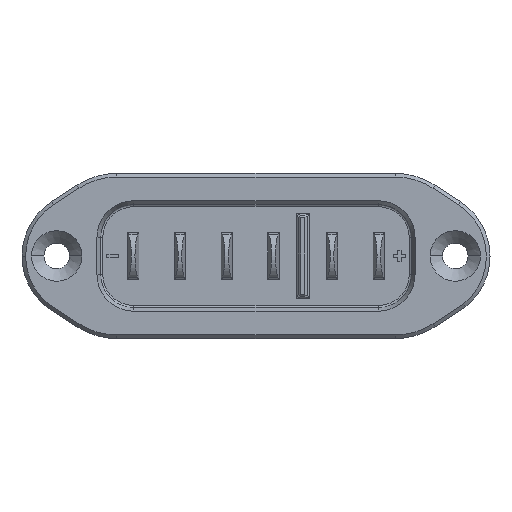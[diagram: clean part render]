
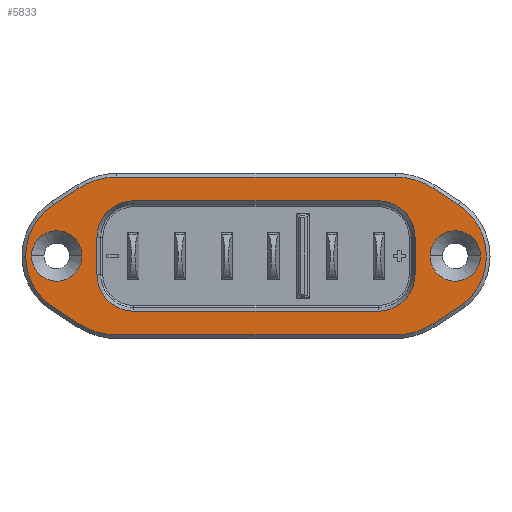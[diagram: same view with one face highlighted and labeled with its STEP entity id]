
A CAD part, top view. The second image highlights one B-rep face of the part: STEP entity #5833.
In plain terms, the highlighted planar face has unit normal (0, 0, 1).
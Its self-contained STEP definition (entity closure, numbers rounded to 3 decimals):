
#2940=DIRECTION('',(-1.,0.,0.));
#2941=VECTOR('',#2940,38.071);
#2942=CARTESIAN_POINT('',(19.836,60.8,10.1));
#2943=LINE('',#2942,#2941);
#2944=CARTESIAN_POINT('',(19.836,51.3,10.1));
#2945=DIRECTION('',(0.,0.,1.));
#2946=DIRECTION('',(0.545,0.838,0.));
#2947=AXIS2_PLACEMENT_3D('',#2944,#2945,#2946);
#2949=CARTESIAN_POINT('',(23.9,49.97,10.1));
#2950=DIRECTION('',(0.,0.,1.));
#2951=DIRECTION('',(0.633,-0.774,0.));
#2952=AXIS2_PLACEMENT_3D('',#2949,#2950,#2951);
#2954=CARTESIAN_POINT('',(19.836,48.7,10.1));
#2955=DIRECTION('',(0.,0.,1.));
#2956=DIRECTION('',(0.,-1.,0.));
#2957=AXIS2_PLACEMENT_3D('',#2954,#2955,#2956);
#2959=DIRECTION('',(1.,0.,0.));
#2960=VECTOR('',#2959,38.071);
#2961=CARTESIAN_POINT('',(-18.236,39.2,10.1));
#2962=LINE('',#2961,#2960);
#2963=CARTESIAN_POINT('',(-18.236,48.7,10.1));
#2964=DIRECTION('',(0.,0.,1.));
#2965=DIRECTION('',(-0.545,-0.838,0.));
#2966=AXIS2_PLACEMENT_3D('',#2963,#2964,#2965);
#2968=CARTESIAN_POINT('',(-22.3,49.97,10.1));
#2969=DIRECTION('',(0.,0.,1.));
#2970=DIRECTION('',(-1.,0.,0.));
#2971=AXIS2_PLACEMENT_3D('',#2968,#2969,#2970);
#2973=CARTESIAN_POINT('',(-22.3,49.97,10.1));
#2974=DIRECTION('',(0.,0.,1.));
#2975=DIRECTION('',(-0.545,0.838,0.));
#2976=AXIS2_PLACEMENT_3D('',#2973,#2974,#2975);
#2978=CARTESIAN_POINT('',(-18.236,51.3,10.1));
#2979=DIRECTION('',(0.,0.,1.));
#2980=DIRECTION('',(0.,1.,0.));
#2981=AXIS2_PLACEMENT_3D('',#2978,#2979,#2980);
#2983=DIRECTION('',(-1.,0.,0.));
#2984=VECTOR('',#2983,33.5);
#2985=CARTESIAN_POINT('',(17.55,42.45,10.1));
#2986=LINE('',#2985,#2984);
#2987=CARTESIAN_POINT('',(17.55,47.45,10.1));
#2988=DIRECTION('',(0.,0.,-1.));
#2989=DIRECTION('',(1.,0.,0.));
#2990=AXIS2_PLACEMENT_3D('',#2987,#2988,#2989);
#2992=DIRECTION('',(0.,-1.,0.));
#2993=VECTOR('',#2992,5.1);
#2994=CARTESIAN_POINT('',(22.55,52.55,10.1));
#2995=LINE('',#2994,#2993);
#2996=CARTESIAN_POINT('',(17.55,52.55,10.1));
#2997=DIRECTION('',(0.,0.,-1.));
#2998=DIRECTION('',(0.,1.,0.));
#2999=AXIS2_PLACEMENT_3D('',#2996,#2997,#2998);
#3001=DIRECTION('',(1.,0.,0.));
#3002=VECTOR('',#3001,33.5);
#3003=CARTESIAN_POINT('',(-15.95,57.55,10.1));
#3004=LINE('',#3003,#3002);
#3005=CARTESIAN_POINT('',(-15.95,52.55,10.1));
#3006=DIRECTION('',(0.,0.,-1.));
#3007=DIRECTION('',(-1.,0.,0.));
#3008=AXIS2_PLACEMENT_3D('',#3005,#3006,#3007);
#3010=DIRECTION('',(0.,1.,0.));
#3011=VECTOR('',#3010,5.1);
#3012=CARTESIAN_POINT('',(-20.95,47.45,10.1));
#3013=LINE('',#3012,#3011);
#3014=CARTESIAN_POINT('',(-15.95,47.45,10.1));
#3015=DIRECTION('',(0.,0.,-1.));
#3016=DIRECTION('',(0.,-1.,0.));
#3017=AXIS2_PLACEMENT_3D('',#3014,#3015,#3016);
#3019=CARTESIAN_POINT('',(28.05,50.,10.1));
#3020=DIRECTION('',(0.,0.,-1.));
#3021=DIRECTION('',(-1.,0.,0.));
#3022=AXIS2_PLACEMENT_3D('',#3019,#3020,#3021);
#3024=CARTESIAN_POINT('',(28.05,50.,10.1));
#3025=DIRECTION('',(0.,0.,-1.));
#3026=DIRECTION('',(1.,0.,0.));
#3027=AXIS2_PLACEMENT_3D('',#3024,#3025,#3026);
#3029=CARTESIAN_POINT('',(-26.45,50.,10.1));
#3030=DIRECTION('',(0.,0.,-1.));
#3031=DIRECTION('',(-1.,0.,0.));
#3032=AXIS2_PLACEMENT_3D('',#3029,#3030,#3031);
#3034=CARTESIAN_POINT('',(-26.45,50.,10.1));
#3035=DIRECTION('',(0.,0.,-1.));
#3036=DIRECTION('',(1.,0.,0.));
#3037=AXIS2_PLACEMENT_3D('',#3034,#3035,#3036);
#3060=DIRECTION('',(0.838,-0.545,0.));
#3061=VECTOR('',#3060,4.133);
#3062=CARTESIAN_POINT('',(25.013,59.265,10.1));
#3063=LINE('',#3062,#3061);
#3084=CARTESIAN_POINT('',(29.219,43.469,10.1));
#3109=DIRECTION('',(-0.838,-0.545,0.));
#3110=VECTOR('',#3109,5.016);
#3111=CARTESIAN_POINT('',(29.219,43.469,10.1));
#3112=LINE('',#3111,#3110);
#3155=DIRECTION('',(-0.838,0.545,0.));
#3156=VECTOR('',#3155,5.016);
#3157=CARTESIAN_POINT('',(-23.413,40.735,10.1));
#3158=LINE('',#3157,#3156);
#3180=CARTESIAN_POINT('',(-27.619,43.469,10.1));
#3192=DIRECTION('',(0.838,0.545,0.));
#3193=VECTOR('',#3192,4.133);
#3194=CARTESIAN_POINT('',(-26.878,57.013,10.1));
#3195=LINE('',#3194,#3193);
#4794=CARTESIAN_POINT('',(22.55,47.45,10.1));
#4795=CARTESIAN_POINT('',(17.55,42.45,10.1));
#4796=VERTEX_POINT('',#4794);
#4797=VERTEX_POINT('',#4795);
#4892=CARTESIAN_POINT('',(-20.95,52.55,10.1));
#4893=CARTESIAN_POINT('',(-15.95,57.55,10.1));
#4894=VERTEX_POINT('',#4892);
#4895=VERTEX_POINT('',#4893);
#4944=CARTESIAN_POINT('',(-15.95,42.45,10.1));
#4945=VERTEX_POINT('',#4944);
#4986=CARTESIAN_POINT('',(17.55,57.55,10.1));
#4987=CARTESIAN_POINT('',(22.55,52.55,10.1));
#4988=VERTEX_POINT('',#4986);
#4989=VERTEX_POINT('',#4987);
#5076=VERTEX_POINT('',#3180);
#5097=CARTESIAN_POINT('',(19.836,60.8,10.1));
#5098=CARTESIAN_POINT('',(-18.236,60.8,10.1));
#5099=VERTEX_POINT('',#5097);
#5100=VERTEX_POINT('',#5098);
#5129=VERTEX_POINT('',#3084);
#5144=CARTESIAN_POINT('',(-29.9,50.,10.1));
#5145=CARTESIAN_POINT('',(-23.,50.,10.1));
#5146=VERTEX_POINT('',#5144);
#5147=VERTEX_POINT('',#5145);
#5210=CARTESIAN_POINT('',(-20.95,47.45,10.1));
#5211=VERTEX_POINT('',#5210);
#5224=CARTESIAN_POINT('',(-18.236,39.2,10.1));
#5225=CARTESIAN_POINT('',(19.836,39.2,10.1));
#5226=VERTEX_POINT('',#5224);
#5227=VERTEX_POINT('',#5225);
#5229=CARTESIAN_POINT('',(24.6,50.,10.1));
#5231=VERTEX_POINT('',#5229);
#5252=CARTESIAN_POINT('',(-23.413,40.735,10.1));
#5253=VERTEX_POINT('',#5252);
#5254=CARTESIAN_POINT('',(-23.413,59.265,10.1));
#5255=VERTEX_POINT('',#5254);
#5266=CARTESIAN_POINT('',(25.013,40.735,10.1));
#5267=VERTEX_POINT('',#5266);
#5306=CARTESIAN_POINT('',(28.478,57.013,10.1));
#5307=VERTEX_POINT('',#5306);
#5316=CARTESIAN_POINT('',(-26.878,57.013,10.1));
#5317=CARTESIAN_POINT('',(-30.7,49.97,10.1));
#5318=VERTEX_POINT('',#5316);
#5319=VERTEX_POINT('',#5317);
#5320=CARTESIAN_POINT('',(31.5,50.,10.1));
#5321=VERTEX_POINT('',#5320);
#5338=CARTESIAN_POINT('',(25.013,59.265,10.1));
#5339=VERTEX_POINT('',#5338);
#5771=CARTESIAN_POINT('',(17.55,52.55,10.1));
#5772=DIRECTION('',(0.,0.,-1.));
#5773=DIRECTION('',(0.,-1.,0.));
#5774=AXIS2_PLACEMENT_3D('',#5771,#5772,#5773);
#5775=PLANE('',#5774);
#5777=ORIENTED_EDGE('',*,*,#5776,.F.);
#5779=ORIENTED_EDGE('',*,*,#5778,.F.);
#5781=ORIENTED_EDGE('',*,*,#5780,.T.);
#5783=ORIENTED_EDGE('',*,*,#5782,.F.);
#5785=ORIENTED_EDGE('',*,*,#5784,.T.);
#5787=ORIENTED_EDGE('',*,*,#5786,.F.);
#5789=ORIENTED_EDGE('',*,*,#5788,.F.);
#5791=ORIENTED_EDGE('',*,*,#5790,.F.);
#5793=ORIENTED_EDGE('',*,*,#5792,.T.);
#5795=ORIENTED_EDGE('',*,*,#5794,.F.);
#5797=ORIENTED_EDGE('',*,*,#5796,.F.);
#5799=ORIENTED_EDGE('',*,*,#5798,.T.);
#5800=ORIENTED_EDGE('',*,*,#5761,.F.);
#5801=EDGE_LOOP('',(#5777,#5779,#5781,#5783,#5785,#5787,#5789,#5791,#5793,#5795,
#5797,#5799,#5800));
#5802=FACE_OUTER_BOUND('',#5801,.F.);
#5804=ORIENTED_EDGE('',*,*,#5803,.F.);
#5806=ORIENTED_EDGE('',*,*,#5805,.F.);
#5808=ORIENTED_EDGE('',*,*,#5807,.F.);
#5810=ORIENTED_EDGE('',*,*,#5809,.F.);
#5812=ORIENTED_EDGE('',*,*,#5811,.F.);
#5814=ORIENTED_EDGE('',*,*,#5813,.F.);
#5816=ORIENTED_EDGE('',*,*,#5815,.F.);
#5818=ORIENTED_EDGE('',*,*,#5817,.F.);
#5819=EDGE_LOOP('',(#5804,#5806,#5808,#5810,#5812,#5814,#5816,#5818));
#5820=FACE_BOUND('',#5819,.F.);
#5822=ORIENTED_EDGE('',*,*,#5821,.F.);
#5824=ORIENTED_EDGE('',*,*,#5823,.F.);
#5825=EDGE_LOOP('',(#5822,#5824));
#5826=FACE_BOUND('',#5825,.F.);
#5828=ORIENTED_EDGE('',*,*,#5827,.F.);
#5830=ORIENTED_EDGE('',*,*,#5829,.F.);
#5831=EDGE_LOOP('',(#5828,#5830));
#5832=FACE_BOUND('',#5831,.F.);
#5833=ADVANCED_FACE('',(#5802,#5820,#5826,#5832),#5775,.F.);
#2948=CIRCLE('',#2947,9.5);
#2953=CIRCLE('',#2952,8.4);
#2958=CIRCLE('',#2957,9.5);
#2967=CIRCLE('',#2966,9.5);
#2972=CIRCLE('',#2971,8.4);
#2977=CIRCLE('',#2976,8.4);
#2982=CIRCLE('',#2981,9.5);
#2991=CIRCLE('',#2990,5.);
#3000=CIRCLE('',#2999,5.);
#3009=CIRCLE('',#3008,5.);
#3018=CIRCLE('',#3017,5.);
#3023=CIRCLE('',#3022,3.45);
#3028=CIRCLE('',#3027,3.45);
#3033=CIRCLE('',#3032,3.45);
#3038=CIRCLE('',#3037,3.45);
#5761=EDGE_CURVE('',#5100,#5255,#2982,.T.);
#5776=EDGE_CURVE('',#5099,#5100,#2943,.T.);
#5778=EDGE_CURVE('',#5339,#5099,#2948,.T.);
#5780=EDGE_CURVE('',#5339,#5307,#3063,.T.);
#5782=EDGE_CURVE('',#5129,#5307,#2953,.T.);
#5784=EDGE_CURVE('',#5129,#5267,#3112,.T.);
#5786=EDGE_CURVE('',#5227,#5267,#2958,.T.);
#5788=EDGE_CURVE('',#5226,#5227,#2962,.T.);
#5790=EDGE_CURVE('',#5253,#5226,#2967,.T.);
#5792=EDGE_CURVE('',#5253,#5076,#3158,.T.);
#5794=EDGE_CURVE('',#5319,#5076,#2972,.T.);
#5796=EDGE_CURVE('',#5318,#5319,#2977,.T.);
#5798=EDGE_CURVE('',#5318,#5255,#3195,.T.);
#5803=EDGE_CURVE('',#4797,#4945,#2986,.T.);
#5805=EDGE_CURVE('',#4796,#4797,#2991,.T.);
#5807=EDGE_CURVE('',#4989,#4796,#2995,.T.);
#5809=EDGE_CURVE('',#4988,#4989,#3000,.T.);
#5811=EDGE_CURVE('',#4895,#4988,#3004,.T.);
#5813=EDGE_CURVE('',#4894,#4895,#3009,.T.);
#5815=EDGE_CURVE('',#5211,#4894,#3013,.T.);
#5817=EDGE_CURVE('',#4945,#5211,#3018,.T.);
#5821=EDGE_CURVE('',#5231,#5321,#3023,.T.);
#5823=EDGE_CURVE('',#5321,#5231,#3028,.T.);
#5827=EDGE_CURVE('',#5146,#5147,#3033,.T.);
#5829=EDGE_CURVE('',#5147,#5146,#3038,.T.);
